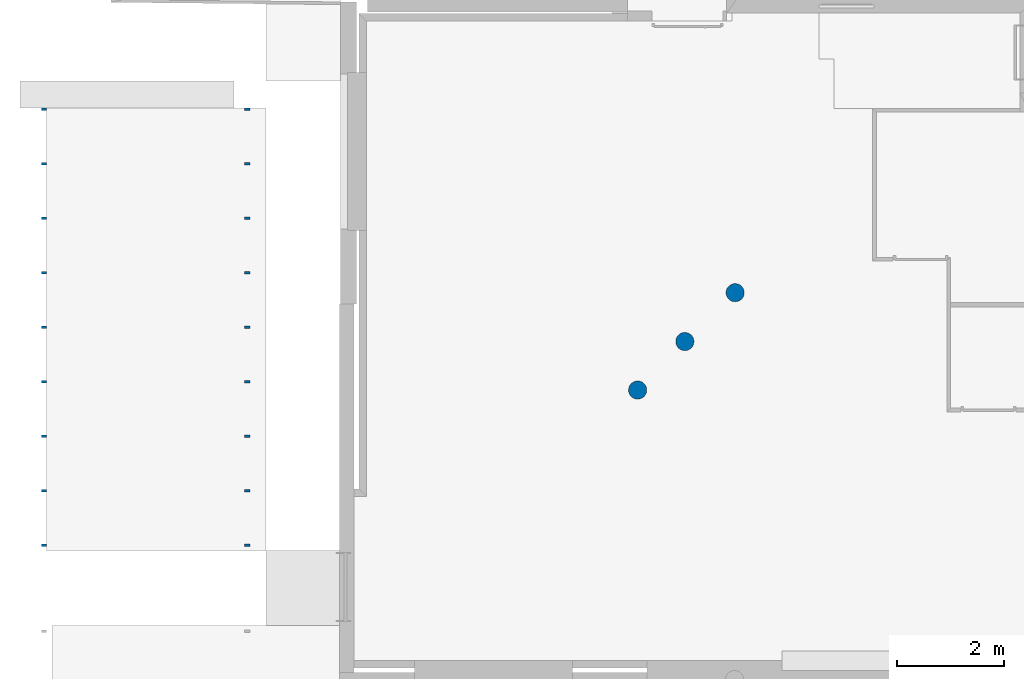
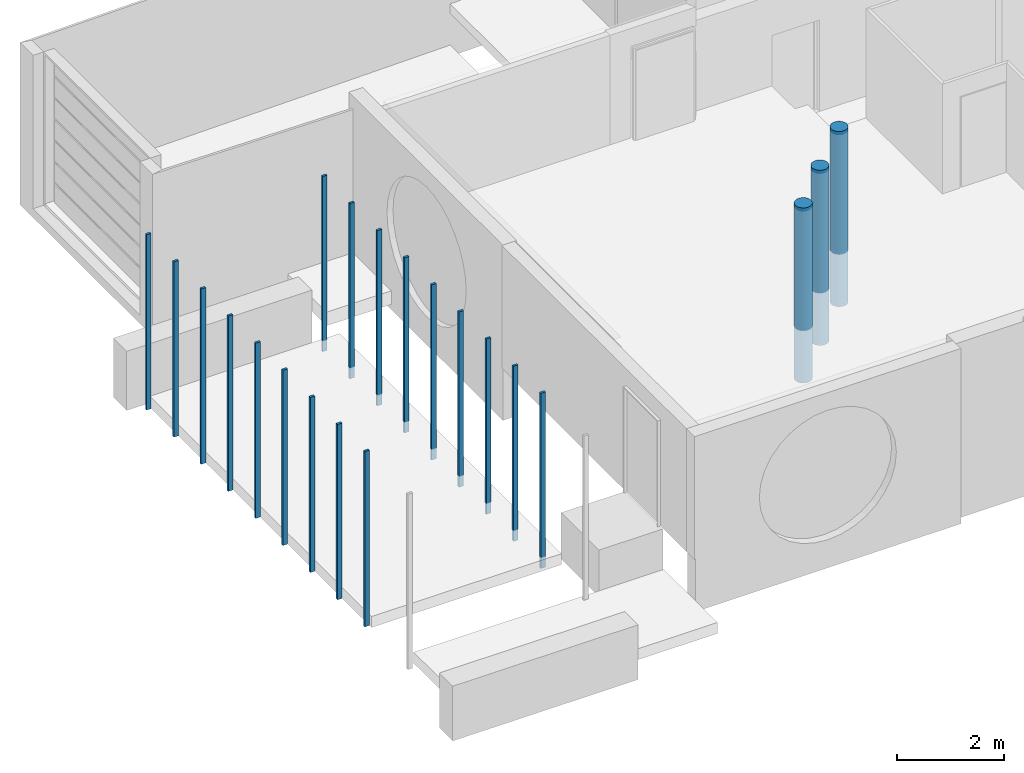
# One storey, part 3 of 64: 21 columns.
"""IFC2X3 building model written with IfcOpenShell, lengths in metres."""

import ifcopenshell
import ifcopenshell.guid

model = None  # the IFC model being written
_history = None  # IfcOwnerHistory: only IFC2X3 demands one
_inside = {}  # id of a spatial element -> (the spatial element, [elements in it])
_under = {}  # id of a project, library or spatial element -> (it, [spatial elements below it])
_declared = {}  # id of a project -> (the project, [libraries it declares])
_typed = {}  # id of a type object -> (the type object, [elements of that type])
_made_of = {}  # id of a material, layer set ... -> (it, [elements and type objects made of it])


def new_model(schema):
    """Start an empty IFC model of exactly this schema.

    Asked for "IFC4X3", IfcOpenShell would pick the latest addendum, in which some entities
    have other attributes; the version numbers below select the first issue.
    IFC2X3 requires an IfcOwnerHistory on every rooted entity: one is made here for all.
    """
    global model, _history
    if schema == "IFC4X3":
        model = ifcopenshell.file(schema_version=(4, 3, 0, 0))
    else:
        model = ifcopenshell.file(schema=schema)
    _inside.clear()
    _under.clear()
    _declared.clear()
    _typed.clear()
    _made_of.clear()
    _history = None
    if model.schema == "IFC2X3":
        org = make("IfcOrganization", Name="unknown")
        user = make(
            "IfcPersonAndOrganization",
            ThePerson=make("IfcPerson", FamilyName="unknown"),
            TheOrganization=org,
        )
        app = make(
            "IfcApplication",
            ApplicationDeveloper=org,
            Version="unknown",
            ApplicationFullName="unknown",
            ApplicationIdentifier="unknown",
        )
        _history = make(
            "IfcOwnerHistory",
            OwningUser=user,
            OwningApplication=app,
            ChangeAction="ADDED",
            CreationDate=0,
        )
    return model


def make(cls, **values):
    """One entity of the class cls with the attributes given. An attribute that is None is left unset."""
    return model.create_entity(
        cls, **{name: value for name, value in values.items() if value is not None}
    )


def entity(cls, *values):
    """Any entity or typed value of the class cls, its attributes in the order of the schema. None: left unset."""
    e = model.create_entity(cls)
    for i, value in enumerate(values):
        if value is not None:
            e[i] = value
    return e


def rooted(cls, **values):
    """An entity with a GlobalId (a new one), such as an element, a storey or a relation."""
    return make(cls, GlobalId=ifcopenshell.guid.new(), OwnerHistory=_history, **values)


def si_unit(unit_type, name, prefix=None):
    """IfcSIUnit, for example si_unit("LENGTHUNIT", "METRE", prefix="MILLI")."""
    return make("IfcSIUnit", UnitType=unit_type, Prefix=prefix, Name=name)


def converted_unit(unit_type, name, factor, base, dimensions=None, offset=None):
    """IfcConversionBasedUnit, such as the inch: factor (a typed value) times the base unit."""
    return make(
        "IfcConversionBasedUnit"
        if offset is None
        else "IfcConversionBasedUnitWithOffset",
        ConversionOffset=offset,
        Dimensions=None
        if dimensions is None
        else entity("IfcDimensionalExponents", *dimensions),
        UnitType=unit_type,
        Name=name,
        ConversionFactor=make(
            "IfcMeasureWithUnit", ValueComponent=factor, UnitComponent=base
        ),
    )


def derived_unit(unit_type, elements):
    """IfcDerivedUnit: a product of units, each with its exponent."""
    return make(
        "IfcDerivedUnit",
        Elements=[
            make("IfcDerivedUnitElement", Unit=unit, Exponent=power)
            for unit, power in elements
        ],
        UnitType=unit_type,
    )


def assignment(units):
    """IfcUnitAssignment: the units of a project."""
    return None if units is None else make("IfcUnitAssignment", Units=units)


def point(xyz):
    """IfcCartesianPoint."""
    return None if xyz is None else make("IfcCartesianPoint", Coordinates=xyz)


def direction(xyz):
    """IfcDirection."""
    return None if xyz is None else make("IfcDirection", DirectionRatios=xyz)


def frame(location, z_axis=None, x_axis=None):
    """IfcAxis2Placement3D, a coordinate frame: its origin and axes. An axis left out is left unset."""
    return make(
        "IfcAxis2Placement3D",
        Location=point(location),
        Axis=direction(z_axis),
        RefDirection=direction(x_axis),
    )


def frame_2d(location, x_axis=None):
    """IfcAxis2Placement2D, a coordinate frame in the plane: its origin and x axis."""
    return make(
        "IfcAxis2Placement2D", Location=point(location), RefDirection=direction(x_axis)
    )


def origin():
    """The frame at (0, 0, 0) with its axes left unset."""
    return frame((0.0, 0.0, 0.0))


def origin_2d_with_axis():
    """The frame at (0, 0) in the plane with the x axis (1, 0) written out."""
    return frame_2d((0.0, 0.0), x_axis=(1.0, 0.0))


def place(relative_to, where):
    """IfcLocalPlacement: puts the frame where relative to a parent placement (None: the world)."""
    return make(
        "IfcLocalPlacement", PlacementRelTo=relative_to, RelativePlacement=where
    )


def context(
    kind, dimensions, precision=None, world=None, true_north=None, identifier=None
):
    """IfcGeometricRepresentationContext, for example the 3D "Model" context."""
    return make(
        "IfcGeometricRepresentationContext",
        ContextIdentifier=identifier,
        ContextType=kind,
        CoordinateSpaceDimension=dimensions,
        Precision=precision,
        WorldCoordinateSystem=world,
        TrueNorth=true_north,
    )


def subcontext(parent, identifier, kind, view, scale=None):
    """IfcGeometricRepresentationSubContext, for example "Body" below "Model"."""
    return make(
        "IfcGeometricRepresentationSubContext",
        ContextIdentifier=identifier,
        ContextType=kind,
        ParentContext=parent,
        TargetScale=scale,
        TargetView=view,
    )


def project(units=None, contexts=None):
    """IfcProject with its units and contexts."""
    return rooted(
        "IfcProject",
        Name="project",
        RepresentationContexts=contexts,
        UnitsInContext=assignment(units),
    )


def spatial(cls, under=None, at=None, **own):
    """A site, building, storey or space (cls), placed at a placement, below another one or the project."""
    s = rooted(cls, ObjectPlacement=at, **own)
    if under is not None:
        _under.setdefault(under.id(), (under, []))[1].append(s)
    return s


def profile(cls, at=None, kind="AREA", **sizes):
    """A parametric profile (cls). Its sizes go by their IFC names, for example OverallWidth=200.0."""
    return make(cls, ProfileType=kind, Position=at, **sizes)


def rectangle(**sizes):
    """IfcRectangleProfileDef."""
    return profile("IfcRectangleProfileDef", **sizes)


def circle(**sizes):
    """IfcCircleProfileDef."""
    return profile("IfcCircleProfileDef", **sizes)


def extrude(swept, where, along, depth):
    """IfcExtrudedAreaSolid: the profile swept, set in the frame where, extruded along a direction by depth."""
    return make(
        "IfcExtrudedAreaSolid",
        SweptArea=swept,
        Position=where,
        ExtrudedDirection=direction(along),
        Depth=depth,
    )


def shape(context_of_items, identifier, shape_type, items):
    """IfcShapeRepresentation: the items that make up one representation, for example the "Body"."""
    return make(
        "IfcShapeRepresentation",
        ContextOfItems=context_of_items,
        RepresentationIdentifier=identifier,
        RepresentationType=shape_type,
        Items=items,
    )


def source(mapping_origin, context_of_items, identifier, shape_type, items):
    """IfcRepresentationMap: a shape defined once, which mapped items show again and again."""
    return make(
        "IfcRepresentationMap",
        MappingOrigin=mapping_origin,
        MappedRepresentation=shape(context_of_items, identifier, shape_type, items),
    )


def transform(
    local_origin,
    x_axis=None,
    y_axis=None,
    z_axis=None,
    scale=None,
    scale2=None,
    scale3=None,
    uniform=True,
):
    """IfcCartesianTransformationOperator3D, or its non-uniform kind. x_axis, y_axis, z_axis: its Axis1, 2, 3."""
    if uniform:
        return make(
            "IfcCartesianTransformationOperator3D",
            Axis1=direction(x_axis),
            Axis2=direction(y_axis),
            LocalOrigin=point(local_origin),
            Scale=scale,
            Axis3=direction(z_axis),
        )
    return make(
        "IfcCartesianTransformationOperator3DnonUniform",
        Axis1=direction(x_axis),
        Axis2=direction(y_axis),
        LocalOrigin=point(local_origin),
        Scale=scale,
        Axis3=direction(z_axis),
        Scale2=scale2,
        Scale3=scale3,
    )


def mapped(mapping_source, mapping_target):
    """IfcMappedItem: shows the shape of a source again, moved by a transform."""
    return make(
        "IfcMappedItem", MappingSource=mapping_source, MappingTarget=mapping_target
    )


def material(Name=None, Category=None):
    """IfcMaterial."""
    return make("IfcMaterial", Name=Name, Category=Category)


def made_of(thing, what):
    """Note that an element or type object is made of a material, layer set ...; save() writes the relation."""
    if what is not None:
        _made_of.setdefault(what.id(), (what, []))[1].append(thing)
    return thing


def type_object(cls, material=None, **own):
    """A type object (cls), such as IfcWallType, which elements share."""
    return made_of(rooted(cls, **own), material)


def type_shapes(of_type, sources):
    """Give a type object the sources (RepresentationMaps) that its elements show as mapped items."""
    of_type.RepresentationMaps = sources


def element(
    cls,
    number,
    at=None,
    inside=None,
    cuts=None,
    type_object=None,
    material=None,
    context=None,
    identifier="Body",
    shape_type=None,
    held_by="IfcProductDefinitionShape",
    body=None,
    shapes=None,
    **own,
):
    """One element of the class cls, such as IfcWall. Its Tag is "e" and its number.

    at: its placement. inside: the storey or other place that contains it. cuts: it is an
    opening in that element (IfcRelVoidsElement). A single representation is given by context,
    identifier, shape_type and body (its items); several are given by shapes. held_by: the class
    of the entity that holds the representations. save() writes the other relations.
    """
    e = rooted(cls, Tag="e%d" % number, ObjectPlacement=at, **own)
    if body is not None:
        shapes = [shape(context, identifier, shape_type, body)]
    if shapes is not None:
        e.Representation = make(held_by, Representations=shapes)
    if inside is not None:
        _inside.setdefault(inside.id(), (inside, []))[1].append(e)
    if cuts is not None:
        rooted(
            "IfcRelVoidsElement", RelatingBuildingElement=cuts, RelatedOpeningElement=e
        )
    if type_object is not None:
        _typed.setdefault(type_object.id(), (type_object, []))[1].append(e)
    return made_of(e, material)


def aggregate(whole, parts):
    """IfcRelAggregates: a whole, such as a stair, and the parts it consists of."""
    return rooted("IfcRelAggregates", RelatingObject=whole, RelatedObjects=parts)


def save(model, path):
    """Write the relations noted so far, then the file.

    IfcRelAggregates (storeys below a building ...), IfcRelContainedInSpatialStructure (elements
    in a storey), IfcRelDefinesByType, IfcRelAssociatesMaterial and IfcRelDeclares: one each for
    every whole, place, type object, material and project.
    """
    for whole, parts in _under.values():
        aggregate(whole, parts)
    for where, things in _inside.values():
        rooted(
            "IfcRelContainedInSpatialStructure",
            RelatedElements=things,
            RelatingStructure=where,
        )
    for kind, things in _typed.values():
        rooted("IfcRelDefinesByType", RelatedObjects=things, RelatingType=kind)
    for what, things in _made_of.values():
        rooted("IfcRelAssociatesMaterial", RelatedObjects=things, RelatingMaterial=what)
    for by, libraries in _declared.values():
        rooted("IfcRelDeclares", RelatingContext=by, RelatedDefinitions=libraries)
    model.write(path)


model = new_model("IFC2X3")

# Units and contexts
model_context = context("Model", 3, precision=1e-05, world=origin(), true_north=direction((6.123031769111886e-17, 1.0)))
body_context = subcontext(model_context, "Body", "Model", "MODEL_VIEW")
ifc_project = project(units=[si_unit("LENGTHUNIT", "METRE"), si_unit("AREAUNIT", "SQUARE_METRE"), si_unit("VOLUMEUNIT", "CUBIC_METRE"), converted_unit("PLANEANGLEUNIT", "DEGREE", entity("IfcRatioMeasure", 0.017453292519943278), si_unit("PLANEANGLEUNIT", "RADIAN"), dimensions=[0, 0, 0, 0, 0, 0, 0]), si_unit("MASSUNIT", "GRAM", prefix="KILO"), derived_unit("MASSDENSITYUNIT", [(si_unit("MASSUNIT", "GRAM", prefix="KILO"), 1), (si_unit("LENGTHUNIT", "METRE"), -3)]), derived_unit("MOMENTOFINERTIAUNIT", [(si_unit("LENGTHUNIT", "METRE"), 4)]), si_unit("TIMEUNIT", "SECOND"), si_unit("FREQUENCYUNIT", "HERTZ"), si_unit("THERMODYNAMICTEMPERATUREUNIT", "DEGREE_CELSIUS"), derived_unit("THERMALTRANSMITTANCEUNIT", [(si_unit("MASSUNIT", "GRAM", prefix="KILO"), 1), (si_unit("THERMODYNAMICTEMPERATUREUNIT", "KELVIN"), -1), (si_unit("TIMEUNIT", "SECOND"), -3)]), derived_unit("THERMALCONDUCTANCEUNIT", [(si_unit("MASSUNIT", "GRAM", prefix="KILO"), 1), (si_unit("LENGTHUNIT", "METRE"), 1), (si_unit("THERMODYNAMICTEMPERATUREUNIT", "KELVIN"), -1), (si_unit("TIMEUNIT", "SECOND"), -3)]), derived_unit("VOLUMETRICFLOWRATEUNIT", [(si_unit("LENGTHUNIT", "METRE"), 3), (si_unit("TIMEUNIT", "SECOND"), -1)]), derived_unit("MASSFLOWRATEUNIT", [(si_unit("MASSUNIT", "GRAM", prefix="KILO"), 1), (si_unit("TIMEUNIT", "SECOND"), -1)]), derived_unit("ROTATIONALFREQUENCYUNIT", [(si_unit("TIMEUNIT", "SECOND"), -1)]), si_unit("ELECTRICCURRENTUNIT", "AMPERE"), si_unit("ELECTRICVOLTAGEUNIT", "VOLT"), si_unit("POWERUNIT", "WATT"), si_unit("FORCEUNIT", "NEWTON", prefix="KILO"), si_unit("ILLUMINANCEUNIT", "LUX"), si_unit("LUMINOUSFLUXUNIT", "LUMEN"), si_unit("LUMINOUSINTENSITYUNIT", "CANDELA"), derived_unit("USERDEFINED", [(si_unit("MASSUNIT", "GRAM", prefix="KILO"), -1), (si_unit("LENGTHUNIT", "METRE"), -2), (si_unit("TIMEUNIT", "SECOND"), 3), (si_unit("LUMINOUSFLUXUNIT", "LUMEN"), 1)]), derived_unit("USERDEFINED", [(si_unit("MASSUNIT", "GRAM", prefix="KILO"), 1), (si_unit("LENGTHUNIT", "METRE"), 3), (si_unit("TIMEUNIT", "SECOND"), -3), (si_unit("ELECTRICCURRENTUNIT", "AMPERE"), -2)]), derived_unit("USERDEFINED", [(si_unit("LENGTHUNIT", "METRE"), 2), (si_unit("TIMEUNIT", "SECOND"), -2)]), derived_unit("SOUNDPOWERUNIT", [(si_unit("MASSUNIT", "GRAM", prefix="KILO"), 1), (si_unit("LENGTHUNIT", "METRE"), 2), (si_unit("TIMEUNIT", "SECOND"), -3)]), derived_unit("SOUNDPRESSUREUNIT", [(si_unit("MASSUNIT", "GRAM", prefix="KILO"), 1), (si_unit("LENGTHUNIT", "METRE"), -1), (si_unit("TIMEUNIT", "SECOND"), -2)]), derived_unit("LINEARVELOCITYUNIT", [(si_unit("LENGTHUNIT", "METRE"), 1), (si_unit("TIMEUNIT", "SECOND"), -1)]), si_unit("PRESSUREUNIT", "PASCAL"), derived_unit("USERDEFINED", [(si_unit("LENGTHUNIT", "METRE"), -2), (si_unit("MASSUNIT", "GRAM", prefix="KILO"), 1), (si_unit("TIMEUNIT", "SECOND"), -2)]), derived_unit("LINEARFORCEUNIT", [(si_unit("MASSUNIT", "GRAM", prefix="KILO"), 1), (si_unit("LENGTHUNIT", "METRE"), 1), (si_unit("TIMEUNIT", "SECOND"), -2), (si_unit("LENGTHUNIT", "METRE"), -1)]), derived_unit("PLANARFORCEUNIT", [(si_unit("MASSUNIT", "GRAM", prefix="KILO"), 1), (si_unit("LENGTHUNIT", "METRE"), 1), (si_unit("TIMEUNIT", "SECOND"), -2), (si_unit("LENGTHUNIT", "METRE"), -2)]), derived_unit("SPECIFICHEATCAPACITYUNIT", [(si_unit("LENGTHUNIT", "METRE"), 2), (si_unit("TIMEUNIT", "SECOND"), -2), (si_unit("THERMODYNAMICTEMPERATUREUNIT", "KELVIN"), -1)]), derived_unit("VAPORPERMEABILITYUNIT", [(si_unit("TIMEUNIT", "SECOND"), 1), (si_unit("LENGTHUNIT", "METRE"), -1)]), derived_unit("DYNAMICVISCOSITYUNIT", [(si_unit("MASSUNIT", "GRAM", prefix="KILO"), 1), (si_unit("LENGTHUNIT", "METRE"), -1), (si_unit("TIMEUNIT", "SECOND"), -1)]), derived_unit("THERMALEXPANSIONCOEFFICIENTUNIT", [(si_unit("THERMODYNAMICTEMPERATUREUNIT", "KELVIN"), -1)])], contexts=[model_context])

# Site, building, storey
site_placement = place(None, origin())
site = spatial("IfcSite", under=ifc_project, at=site_placement, Name="Default", CompositionType="ELEMENT")
building_placement = place(site_placement, origin())
building = spatial("IfcBuilding", under=site, at=building_placement, CompositionType="ELEMENT")
storey_placement = place(building_placement, origin())
storey = spatial("IfcBuildingStorey", under=building, at=storey_placement, Name="REZ-DE-CHAUSSÉE", CompositionType="ELEMENT", Elevation=0.0)

# Columns
ifc_material_1 = material(Name="Peinture - Gris foncé")
column_type_1 = type_object("IfcColumnType", Name="Pot-006 103892:Pot-006 103892", PredefinedType="COLUMN", material=ifc_material_1)
shared_shape_1 = source(origin(), body_context, "Body", "SweptSolid", [
    extrude(rectangle(XDim=0.05, YDim=0.1, at=origin_2d_with_axis()), frame((0.0, 0.0, -1.2000000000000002), z_axis=(0.0, 0.0, 1.0), x_axis=(0.0, -1.0, 0.0)), (0.0, 0.0, 1.0), 4.0),
])
type_shapes(column_type_1, [shared_shape_1])
for number, where, name in (
    (1, (84.2007522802, 15.082209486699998, 0.0), "Pot-007"),
    (2, (88.0007522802, 16.1022094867, 0.0), "Pot-007"),
    (3, (84.2007522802, 16.1022094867, 0.0), "Pot-007"),
    (4, (88.0007522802, 17.1222094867, 0.0), "Pot-007"),
    (5, (84.2007522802, 17.1222094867, 0.0), "Pot-007"),
    (6, (88.0007522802, 18.1422094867, 0.0), "Pot-007"),
    (7, (84.2007522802, 18.1422094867, 0.0), "Pot-007"),
    (8, (88.0007522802, 19.1622094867, 0.0), "Pot-007"),
    (9, (84.2007522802, 19.1622094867, 0.0), "Pot-007"),
    (10, (88.0007522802, 20.1822094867, 0.0), "Pot-007"),
    (11, (84.2007522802, 20.1822094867, 0.0), "Pot-007"),
    (12, (88.0007522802, 21.2022094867, 0.0), "Pot-007"),
    (13, (84.2007522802, 21.2022094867, 0.0), "Pot-007"),
    (14, (84.2007522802, 14.0622094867, 0.0), "Pot-007"),
    (15, (88.0007522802, 14.0622094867, 0.0), "Pot-007"),
    (16, (88.0007522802, 15.082209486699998, 0.0), "Pot-007"),
    (17, (88.0007522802, 22.2222094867, 0.0), "Pot-007"),
    (18, (84.2007522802, 22.2222094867, 0.0), "Pot-007"),
):
    element("IfcColumn", number, at=place(storey_placement, frame(where)), inside=storey, type_object=column_type_1, material=ifc_material_1, Name=name, ObjectType="Pot-006 103892:Pot-006 103892", context=body_context, shape_type="MappedRepresentation", body=[
        mapped(shared_shape_1, transform((0.0, 0.0, 0.0), scale=1.0)),
    ])
ifc_material_2 = material(Name="Surface-Blanc")
column_type_2 = type_object("IfcColumnType", Name="Pot-001 17357:Pot-001 17357", PredefinedType="COLUMN", material=ifc_material_2)
shared_shape_2 = source(origin(), body_context, "Body", "SweptSolid", [
    extrude(circle(Radius=0.17, at=frame_2d((-1.6919798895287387e-17, -2.746069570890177e-16), x_axis=(1.0, 0.0))), frame((0.0, 0.0, -1.1999999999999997)), (0.0, 0.0, 1.0), 4.0),
])
type_shapes(column_type_2, [shared_shape_2])
for number, where, name in (
    (19, (97.13075227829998, 18.7872094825, 0.0), "Pot-003"),
    (20, (96.1892020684, 17.873305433, 0.0), "Pot-002"),
    (21, (95.3066144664, 16.965584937, 0.0), "Pot-001"),
):
    element("IfcColumn", number, at=place(storey_placement, frame(where)), inside=storey, type_object=column_type_2, material=ifc_material_2, Name=name, ObjectType="Pot-001 17357:Pot-001 17357", context=body_context, shape_type="MappedRepresentation", body=[
        mapped(shared_shape_2, transform((0.0, 0.0, 0.0), scale=1.0)),
    ])

save(model, "model.ifc")
